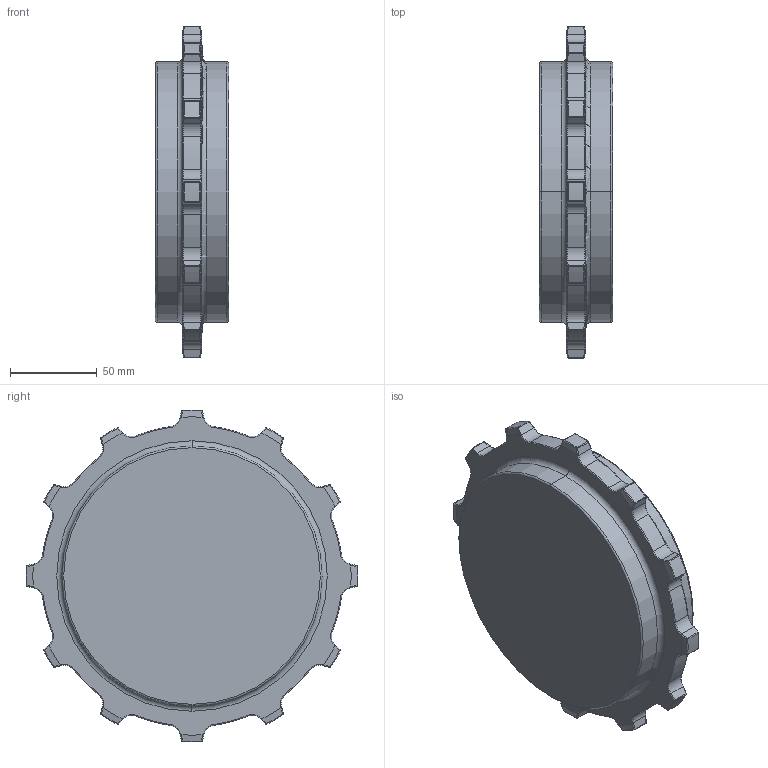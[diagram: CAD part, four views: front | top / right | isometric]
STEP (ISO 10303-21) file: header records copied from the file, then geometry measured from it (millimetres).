
FILE_DESCRIPTION((''),'2;1');
FILE_NAME('24Z12BBM','2009-09-18T',('mth'),(''),'PRO/ENGINEER BY PARAMETRIC TECHNOLOGY CORPORATION, 2008490','PRO/ENGINEER BY PARAMETRIC TECHNOLOGY CORPORATION, 2008490','');
FILE_SCHEMA(('AUTOMOTIVE_DESIGN { 1 0 10303 214 1 1 1 1 }'));
Length unit declared in the file: millimetre
Products named in the file (1): 24Z12BBM
Bounding box: 42.3 x 191.49 x 191.49 mm (x, y, z)
Volume: 833503.5 mm3; surface area: 70966.4 mm2
Topology: 1 solids, 1 shells, 820 faces, 2120 edges, 1329 vertices
Faces by surface type: plane 459, cylinder 133, torus 106, bspline 48, sphere 48, cone 26
Entity records: 26964 total; most frequent: CARTESIAN_POINT 7179, ORIENTED_EDGE 4236, DIRECTION 3955, EDGE_CURVE 2118, VECTOR 1401, LINE 1401, VERTEX_POINT 1329, AXIS2_PLACEMENT_3D 1277
